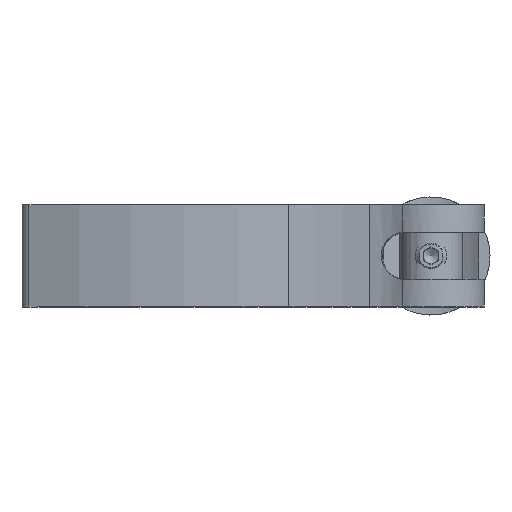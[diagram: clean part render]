
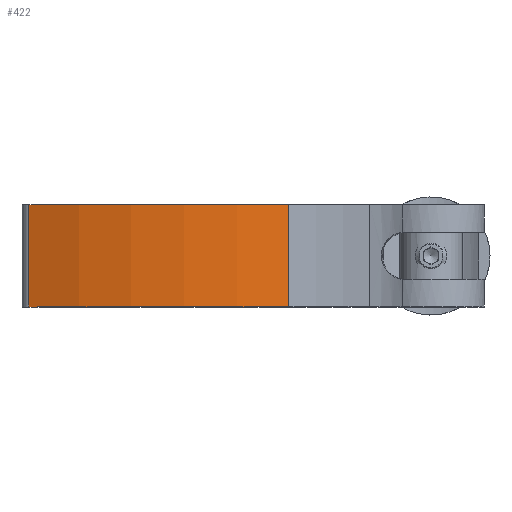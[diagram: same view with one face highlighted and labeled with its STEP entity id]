
A CAD part, top view. The second image highlights one B-rep face of the part: STEP entity #422.
In plain terms, the highlighted cylindrical face has radius 48.278 mm (diameter 96.556 mm), a partial arc.
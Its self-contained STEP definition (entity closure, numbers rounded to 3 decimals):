
#422=ADVANCED_FACE('',(#681),#683,.T.);
#681=FACE_BOUND('',#682,.T.);
#682=EDGE_LOOP('',(#964,#965,#966,#967));
#683=CYLINDRICAL_SURFACE('',#684,48.278);
#684=AXIS2_PLACEMENT_3D('',#685,#686,#687);
#685=CARTESIAN_POINT('',(-32.129,0.,-42.629));
#686=DIRECTION('',(0.,1.,0.));
#687=DIRECTION('',(-0.392,0.,0.92));
#964=ORIENTED_EDGE('',*,*,#1103,.T.);
#965=ORIENTED_EDGE('',*,*,#1101,.T.);
#966=ORIENTED_EDGE('',*,*,#1097,.F.);
#967=ORIENTED_EDGE('',*,*,#1112,.F.);
#1097=EDGE_CURVE('',#1252,#1254,#1255,.T.);
#1101=EDGE_CURVE('',#1258,#1254,#1260,.T.);
#1103=EDGE_CURVE('',#1263,#1258,#1264,.T.);
#1112=EDGE_CURVE('',#1263,#1252,#1276,.T.);
#1252=VERTEX_POINT('',#2348);
#1254=VERTEX_POINT('',#2353);
#1255=CIRCLE('',#2354,48.278);
#1258=VERTEX_POINT('',#2366);
#1260=LINE('',#2371,#2372);
#1263=VERTEX_POINT('',#2379);
#1264=CIRCLE('',#2380,48.278);
#1276=LINE('',#2414,#2415);
#2348=CARTESIAN_POINT('',(-51.068,13.,1.78));
#2353=CARTESIAN_POINT('',(-18.,13.,3.536));
#2354=AXIS2_PLACEMENT_3D('',#2355,#2356,#2357);
#2355=CARTESIAN_POINT('',(-32.129,13.,-42.629));
#2356=DIRECTION('',(0.,1.,0.));
#2357=DIRECTION('',(-0.392,0.,0.92));
#2366=CARTESIAN_POINT('',(-18.,0.,3.536));
#2371=CARTESIAN_POINT('',(-18.,0.,3.536));
#2372=VECTOR('',#2373,1.);
#2373=DIRECTION('',(0.,1.,0.));
#2379=CARTESIAN_POINT('',(-51.068,0.,1.78));
#2380=AXIS2_PLACEMENT_3D('',#2381,#2382,#2383);
#2381=CARTESIAN_POINT('',(-32.129,0.,-42.629));
#2382=DIRECTION('',(0.,1.,0.));
#2383=DIRECTION('',(-0.392,0.,0.92));
#2414=CARTESIAN_POINT('',(-51.068,0.,1.78));
#2415=VECTOR('',#2416,1.);
#2416=DIRECTION('',(0.,1.,0.));
